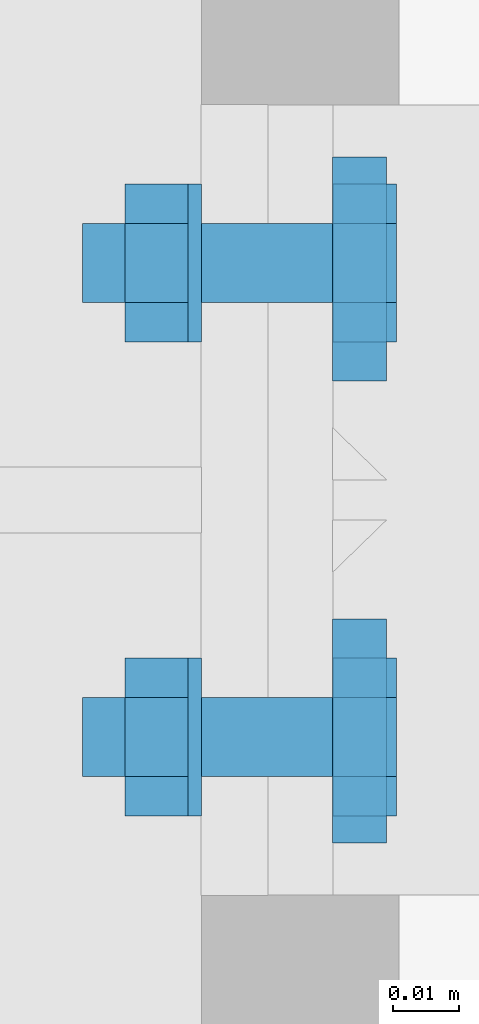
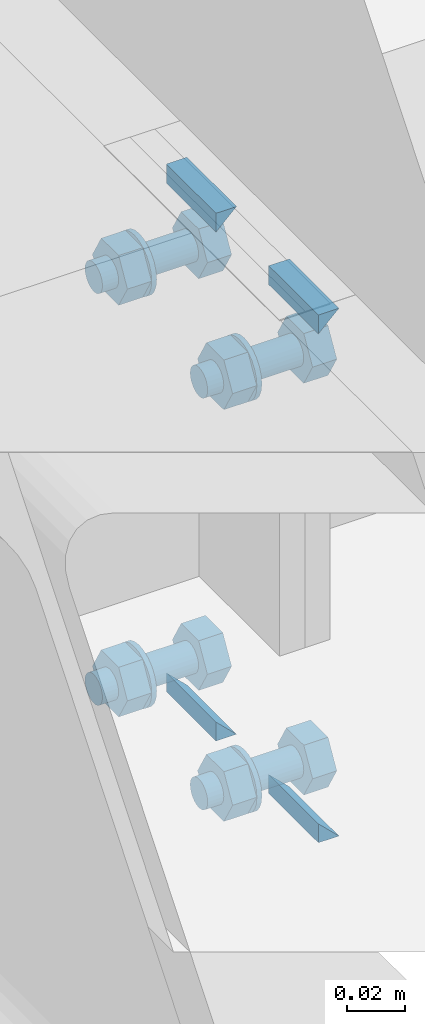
# One storey, part 33 of 66: 16 mechanical fasteners, 8 fasteners.
"""IFC4 building model written with IfcOpenShell, lengths in metres."""

from ifc_helpers import new_model, si_unit, frame, origin_with_axes, place, context, project, spatial, polyline, outline, extrude, type_object, element, save


model = new_model("IFC4")

# Units and contexts
model_context = context("Model", 3, precision=1e-05, world=origin_with_axes())
ifc_project = project(units=[si_unit("LENGTHUNIT", "METRE"), si_unit("AREAUNIT", "SQUARE_METRE"), si_unit("VOLUMEUNIT", "CUBIC_METRE"), si_unit("MASSUNIT", "GRAM", prefix="KILO"), si_unit("TIMEUNIT", "SECOND"), si_unit("PLANEANGLEUNIT", "RADIAN"), si_unit("SOLIDANGLEUNIT", "STERADIAN"), si_unit("THERMODYNAMICTEMPERATUREUNIT", "DEGREE_CELSIUS")], contexts=[model_context])

# Site, building, storey
placement_1 = place(None, origin_with_axes())
site = spatial("IfcSite", under=ifc_project, at=placement_1, Name="Italia", CompositionType="ELEMENT")
building = spatial("IfcBuilding", under=site, at=placement_1, Name="Uffici", CompositionType="ELEMENT")
storey_placement = place(None, frame((0.0, 0.0, 3.299999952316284), z_axis=(0.0, 0.0, 1.0), x_axis=(1.0, 0.0, 0.0)))
storey = spatial("IfcBuildingStorey", under=building, at=storey_placement, Name="Storey 1", CompositionType="ELEMENT", Elevation=3.299999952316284)

# Fasteners
fastener_type_1 = type_object("IfcFastenerType", Name="Collegamento -011_-012", PredefinedType="WELD")
placement_2 = place(placement_1, origin_with_axes())
fastener_1_placement = place(placement_2, origin_with_axes())
element("IfcFastener", 1, at=fastener_1_placement, inside=storey, type_object=fastener_type_1, Name="Collegamento -011_-012", context=model_context, shape_type="SweptSolid", body=[
    extrude(outline(polyline([(0.0, 0.0), (-0.00817336, 0.00792813), (0.0, 0.00792813), (0.0, 0.0)])), frame((0.13995, 3.54128, 3.28232), z_axis=(0.0, 1.0, 0.0), x_axis=(-1.0, 0.0, 0.0)), (0.0, 0.0, 1.0), 0.0339999),
])
fastener_type_2 = type_object("IfcFastenerType", Name="Collegamento -011_-012", PredefinedType="WELD")
fastener_2_placement = place(placement_2, origin_with_axes())
element("IfcFastener", 2, at=fastener_2_placement, inside=storey, type_object=fastener_type_2, Name="Collegamento -011_-012", context=model_context, shape_type="SweptSolid", body=[
    extrude(outline(polyline([(0.0, 0.0), (0.00817336, -0.00792813), (0.0, -0.00792813), (0.0, 0.0)])), frame((0.13995, 3.57528, 3.07768), z_axis=(0.0, -1.0, 0.0), x_axis=(1.0, 0.0, 0.0)), (0.0, 0.0, 1.0), 0.0339999),
])
fastener_type_3 = type_object("IfcFastenerType", Name="Collegamento -011_-012", PredefinedType="WELD")
fastener_3_placement = place(placement_2, origin_with_axes())
element("IfcFastener", 3, at=fastener_3_placement, inside=storey, type_object=fastener_type_3, Name="Collegamento -011_-012", context=model_context, shape_type="SweptSolid", body=[
    extrude(outline(polyline([(0.0, 0.0), (0.00817336, -0.00792813), (0.0, -0.00792813), (0.0, 0.0)])), frame((0.13995, 3.64538, 3.07768), z_axis=(0.0, -1.0, 0.0), x_axis=(1.0, 0.0, 0.0)), (0.0, 0.0, 1.0), 0.0339999),
])
fastener_type_4 = type_object("IfcFastenerType", Name="Collegamento -011_-012", PredefinedType="WELD")
fastener_4_placement = place(placement_2, origin_with_axes())
element("IfcFastener", 4, at=fastener_4_placement, inside=storey, type_object=fastener_type_4, Name="Collegamento -011_-012", context=model_context, shape_type="SweptSolid", body=[
    extrude(outline(polyline([(0.0, 0.0), (-0.00817336, 0.00792813), (0.0, 0.00792813), (0.0, 0.0)])), frame((0.13995, 3.61138, 3.28232), z_axis=(0.0, 1.0, 0.0), x_axis=(-1.0, 0.0, 0.0)), (0.0, 0.0, 1.0), 0.0339999),
])
fastener_type_5 = type_object("IfcFastenerType", Name="Collegamento -011_-012", PredefinedType="WELD")
fastener_5_placement = place(placement_2, origin_with_axes())
element("IfcFastener", 5, at=fastener_5_placement, inside=storey, type_object=fastener_type_5, Name="Collegamento -011_-012", context=model_context, shape_type="SweptSolid", body=[
    extrude(outline(polyline([(0.0, 0.0), (-0.00817336, 0.00792813), (0.0, 0.00792813), (0.0, 0.0)])), frame((0.13995, 3.54128, 3.28232), z_axis=(0.0, 1.0, 0.0), x_axis=(-1.0, 0.0, 0.0)), (0.0, 0.0, 1.0), 0.0339999),
])
fastener_type_6 = type_object("IfcFastenerType", Name="Collegamento -011_-012", PredefinedType="WELD")
fastener_6_placement = place(placement_2, origin_with_axes())
element("IfcFastener", 6, at=fastener_6_placement, inside=storey, type_object=fastener_type_6, Name="Collegamento -011_-012", context=model_context, shape_type="SweptSolid", body=[
    extrude(outline(polyline([(0.0, 0.0), (0.00817336, -0.00792813), (0.0, -0.00792813), (0.0, 0.0)])), frame((0.13995, 3.57528, 3.07768), z_axis=(0.0, -1.0, 0.0), x_axis=(1.0, 0.0, 0.0)), (0.0, 0.0, 1.0), 0.0339999),
])
fastener_type_7 = type_object("IfcFastenerType", Name="Collegamento -011_-012", PredefinedType="WELD")
fastener_7_placement = place(placement_2, origin_with_axes())
element("IfcFastener", 7, at=fastener_7_placement, inside=storey, type_object=fastener_type_7, Name="Collegamento -011_-012", context=model_context, shape_type="SweptSolid", body=[
    extrude(outline(polyline([(0.0, 0.0), (0.00817336, -0.00792813), (0.0, -0.00792813), (0.0, 0.0)])), frame((0.13995, 3.64538, 3.07768), z_axis=(0.0, -1.0, 0.0), x_axis=(1.0, 0.0, 0.0)), (0.0, 0.0, 1.0), 0.0339999),
])
fastener_type_8 = type_object("IfcFastenerType", Name="Collegamento -011_-012", PredefinedType="WELD")
fastener_8_placement = place(placement_2, origin_with_axes())
element("IfcFastener", 8, at=fastener_8_placement, inside=storey, type_object=fastener_type_8, Name="Collegamento -011_-012", context=model_context, shape_type="SweptSolid", body=[
    extrude(outline(polyline([(0.0, 0.0), (-0.00817336, 0.00792813), (0.0, 0.00792813), (0.0, 0.0)])), frame((0.13995, 3.61138, 3.28232), z_axis=(0.0, 1.0, 0.0), x_axis=(-1.0, 0.0, 0.0)), (0.0, 0.0, 1.0), 0.0339999),
])

# Mechanical fasteners
mechanical_fastener_type_1 = type_object("IfcMechanicalFastenerType", Name="Collegamento -011_-012", PredefinedType="BOLT")
mechanical_fastener_1_placement = place(placement_2, origin_with_axes())
element("IfcMechanicalFastener", 9, at=mechanical_fastener_1_placement, inside=storey, type_object=mechanical_fastener_type_1, Name="Collegamento -011_-012", NominalDiameter=0.0119999, context=model_context, shape_type="SweptSolid", body=[
    extrude(outline(polyline([(0.0, 0.0), (-0.0120001, 0.0), (-0.0180001, 0.0103924), (-0.0120001, 0.0207846), (0.0, 0.0207846), (0.00600004, 0.0103924), (0.0, 0.0)])), frame((0.14, 3.56333, 3.08361), z_axis=(1.0, 0.0, 0.0), x_axis=(0.0, 1.0, 0.0)), (0.0, 0.0, 1.0), 0.0096),
])
mechanical_fastener_type_2 = type_object("IfcMechanicalFastenerType", Name="Collegamento -011_-012", PredefinedType="BOLT")
mechanical_fastener_2_placement = place(placement_2, origin_with_axes())
element("IfcMechanicalFastener", 10, at=mechanical_fastener_2_placement, inside=storey, type_object=mechanical_fastener_type_2, Name="Collegamento -011_-012", NominalDiameter=0.012, context=model_context, shape_type="SweptSolid", body=[
    extrude(outline(polyline([(0.0, 0.0), (-0.000204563, -0.00155282), (-0.000803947, -0.00300002), (-0.00175738, -0.00424266), (-0.00300002, -0.00519609), (-0.00444722, -0.00579548), (-0.00600004, -0.00600004), (-0.00755286, -0.00579548), (-0.00900006, -0.00519609), (-0.0102427, -0.00424266), (-0.0111961, -0.00300002), (-0.0117955, -0.00155282), (-0.0120001, 0.0), (-0.0117955, 0.00155282), (-0.0111961, 0.00300002), (-0.0102427, 0.00424266), (-0.00900006, 0.00519609), (-0.00755286, 0.00579548), (-0.00600004, 0.00600004), (-0.00444722, 0.00579548), (-0.00300002, 0.00519609), (-0.00175738, 0.00424266), (-0.000803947, 0.00300002), (-0.000204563, 0.00155282), (0.0, 0.0)])), frame((0.102, 3.56333, 3.094), z_axis=(1.0, 0.0, 0.0), x_axis=(0.0, 1.0, 0.0)), (0.0, 0.0, 1.0), 0.038),
])
mechanical_fastener_type_3 = type_object("IfcMechanicalFastenerType", Name="Collegamento -011_-012", PredefinedType="BOLT")
mechanical_fastener_3_placement = place(placement_2, origin_with_axes())
element("IfcMechanicalFastener", 11, at=mechanical_fastener_3_placement, inside=storey, type_object=mechanical_fastener_type_3, Name="Collegamento -011_-012", NominalDiameter=0.0119999, context=model_context, shape_type="SweptSolid", body=[
    extrude(outline(polyline([(0.0, 0.0), (-0.0120001, 0.0), (-0.0180001, 0.0103924), (-0.0120001, 0.0207846), (0.0, 0.0207846), (0.00600004, 0.0103924), (0.0, 0.0)])), frame((0.1084, 3.56333, 3.08361), z_axis=(1.0, 0.0, 0.0), x_axis=(0.0, 1.0, 0.0)), (0.0, 0.0, 1.0), 0.00960001),
])
mechanical_fastener_type_4 = type_object("IfcMechanicalFastenerType", Name="Collegamento -011_-012", PredefinedType="BOLT")
mechanical_fastener_4_placement = place(placement_2, origin_with_axes())
element("IfcMechanicalFastener", 12, at=mechanical_fastener_4_placement, inside=storey, type_object=mechanical_fastener_type_4, Name="Collegamento -011_-012", NominalDiameter=0.024, context=model_context, shape_type="SweptSolid", body=[
    extrude(outline(polyline([(0.0, 0.0), (-0.000408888, -0.00310588), (-0.00160789, -0.00600004), (-0.00351477, -0.00848532), (-0.00600004, -0.0103922), (-0.00889421, -0.0115912), (-0.0120001, -0.0120001), (-0.015106, -0.0115912), (-0.0180001, -0.0103922), (-0.0204854, -0.00848532), (-0.0223923, -0.00600004), (-0.0235913, -0.00310588), (-0.0240002, 0.0), (-0.0235913, 0.00310588), (-0.0223923, 0.00600004), (-0.0204854, 0.00848532), (-0.0180001, 0.0103922), (-0.015106, 0.0115912), (-0.0120001, 0.0120001), (-0.00889421, 0.0115912), (-0.00600004, 0.0103922), (-0.00351477, 0.00848532), (-0.00160789, 0.00600004), (-0.000408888, 0.00310588), (0.0, 0.0)])), frame((0.118, 3.56933, 3.094), z_axis=(1.0, 0.0, 0.0), x_axis=(0.0, 1.0, 0.0)), (0.0, 0.0, 1.0), 0.002),
])
mechanical_fastener_type_5 = type_object("IfcMechanicalFastenerType", Name="Collegamento -011_-012", PredefinedType="BOLT")
mechanical_fastener_5_placement = place(placement_2, origin_with_axes())
element("IfcMechanicalFastener", 13, at=mechanical_fastener_5_placement, inside=storey, type_object=mechanical_fastener_type_5, Name="Collegamento -011_-012", NominalDiameter=0.0119999, context=model_context, shape_type="SweptSolid", body=[
    extrude(outline(polyline([(0.0, 0.0), (-0.0120001, 0.0), (-0.0180001, 0.0103924), (-0.0120001, 0.0207846), (0.0, 0.0207846), (0.00600004, 0.0103924), (0.0, 0.0)])), frame((0.14, 3.63533, 3.08361), z_axis=(1.0, 0.0, 0.0), x_axis=(0.0, 1.0, 0.0)), (0.0, 0.0, 1.0), 0.0096),
])
mechanical_fastener_type_6 = type_object("IfcMechanicalFastenerType", Name="Collegamento -011_-012", PredefinedType="BOLT")
mechanical_fastener_6_placement = place(placement_2, origin_with_axes())
element("IfcMechanicalFastener", 14, at=mechanical_fastener_6_placement, inside=storey, type_object=mechanical_fastener_type_6, Name="Collegamento -011_-012", NominalDiameter=0.012, context=model_context, shape_type="SweptSolid", body=[
    extrude(outline(polyline([(0.0, 0.0), (-0.000204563, -0.00155282), (-0.000803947, -0.00300002), (-0.00175738, -0.00424266), (-0.00300002, -0.00519609), (-0.00444722, -0.00579548), (-0.00600004, -0.00600004), (-0.00755286, -0.00579548), (-0.00900006, -0.00519609), (-0.0102427, -0.00424266), (-0.0111961, -0.00300002), (-0.0117955, -0.00155282), (-0.0120001, 0.0), (-0.0117955, 0.00155282), (-0.0111961, 0.00300002), (-0.0102427, 0.00424266), (-0.00900006, 0.00519609), (-0.00755286, 0.00579548), (-0.00600004, 0.00600004), (-0.00444722, 0.00579548), (-0.00300002, 0.00519609), (-0.00175738, 0.00424266), (-0.000803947, 0.00300002), (-0.000204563, 0.00155282), (0.0, 0.0)])), frame((0.102, 3.63533, 3.094), z_axis=(1.0, 0.0, 0.0), x_axis=(0.0, 1.0, 0.0)), (0.0, 0.0, 1.0), 0.038),
])
mechanical_fastener_type_7 = type_object("IfcMechanicalFastenerType", Name="Collegamento -011_-012", PredefinedType="BOLT")
mechanical_fastener_7_placement = place(placement_2, origin_with_axes())
element("IfcMechanicalFastener", 15, at=mechanical_fastener_7_placement, inside=storey, type_object=mechanical_fastener_type_7, Name="Collegamento -011_-012", NominalDiameter=0.0119999, context=model_context, shape_type="SweptSolid", body=[
    extrude(outline(polyline([(0.0, 0.0), (-0.0120001, 0.0), (-0.0180001, 0.0103924), (-0.0120001, 0.0207846), (0.0, 0.0207846), (0.00600004, 0.0103924), (0.0, 0.0)])), frame((0.1084, 3.63533, 3.08361), z_axis=(1.0, 0.0, 0.0), x_axis=(0.0, 1.0, 0.0)), (0.0, 0.0, 1.0), 0.00960001),
])
mechanical_fastener_type_8 = type_object("IfcMechanicalFastenerType", Name="Collegamento -011_-012", PredefinedType="BOLT")
mechanical_fastener_8_placement = place(placement_2, origin_with_axes())
element("IfcMechanicalFastener", 16, at=mechanical_fastener_8_placement, inside=storey, type_object=mechanical_fastener_type_8, Name="Collegamento -011_-012", NominalDiameter=0.024, context=model_context, shape_type="SweptSolid", body=[
    extrude(outline(polyline([(0.0, 0.0), (-0.000408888, -0.00310588), (-0.00160789, -0.00600004), (-0.00351477, -0.00848532), (-0.00600004, -0.0103922), (-0.00889421, -0.0115912), (-0.0120001, -0.0120001), (-0.015106, -0.0115912), (-0.0180001, -0.0103922), (-0.0204854, -0.00848532), (-0.0223923, -0.00600004), (-0.0235913, -0.00310588), (-0.0240002, 0.0), (-0.0235913, 0.00310588), (-0.0223923, 0.00600004), (-0.0204854, 0.00848532), (-0.0180001, 0.0103922), (-0.015106, 0.0115912), (-0.0120001, 0.0120001), (-0.00889421, 0.0115912), (-0.00600004, 0.0103922), (-0.00351477, 0.00848532), (-0.00160789, 0.00600004), (-0.000408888, 0.00310588), (0.0, 0.0)])), frame((0.118, 3.64133, 3.094), z_axis=(1.0, 0.0, 0.0), x_axis=(0.0, 1.0, 0.0)), (0.0, 0.0, 1.0), 0.002),
])
mechanical_fastener_type_9 = type_object("IfcMechanicalFastenerType", Name="Collegamento -011_-012", PredefinedType="BOLT")
mechanical_fastener_9_placement = place(placement_2, origin_with_axes())
element("IfcMechanicalFastener", 17, at=mechanical_fastener_9_placement, inside=storey, type_object=mechanical_fastener_type_9, Name="Collegamento -011_-012", NominalDiameter=0.0119999, context=model_context, shape_type="SweptSolid", body=[
    extrude(outline(polyline([(0.0, 0.0), (-0.0120001, 0.0), (-0.0180001, 0.0103922), (-0.0120001, 0.0207846), (0.0, 0.0207846), (0.00600004, 0.0103922), (0.0, 0.0)])), frame((0.14, 3.56333, 3.25561), z_axis=(1.0, 0.0, 0.0), x_axis=(0.0, 1.0, 0.0)), (0.0, 0.0, 1.0), 0.0096),
])
mechanical_fastener_type_10 = type_object("IfcMechanicalFastenerType", Name="Collegamento -011_-012", PredefinedType="BOLT")
mechanical_fastener_10_placement = place(placement_2, origin_with_axes())
element("IfcMechanicalFastener", 18, at=mechanical_fastener_10_placement, inside=storey, type_object=mechanical_fastener_type_10, Name="Collegamento -011_-012", NominalDiameter=0.012, context=model_context, shape_type="SweptSolid", body=[
    extrude(outline(polyline([(0.0, 0.0), (-0.000204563, -0.00155282), (-0.000803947, -0.00300002), (-0.00175738, -0.00424266), (-0.00300002, -0.00519609), (-0.00444722, -0.00579548), (-0.00600004, -0.00600004), (-0.00755286, -0.00579548), (-0.00900006, -0.00519609), (-0.0102427, -0.00424266), (-0.0111961, -0.00300002), (-0.0117955, -0.00155282), (-0.0120001, 0.0), (-0.0117955, 0.00155282), (-0.0111961, 0.00300002), (-0.0102427, 0.00424266), (-0.00900006, 0.00519609), (-0.00755286, 0.00579548), (-0.00600004, 0.00600004), (-0.00444722, 0.00579548), (-0.00300002, 0.00519609), (-0.00175738, 0.00424266), (-0.000803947, 0.00300002), (-0.000204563, 0.00155282), (0.0, 0.0)])), frame((0.102, 3.56333, 3.266), z_axis=(1.0, 0.0, 0.0), x_axis=(0.0, 1.0, 0.0)), (0.0, 0.0, 1.0), 0.038),
])
mechanical_fastener_type_11 = type_object("IfcMechanicalFastenerType", Name="Collegamento -011_-012", PredefinedType="BOLT")
mechanical_fastener_11_placement = place(placement_2, origin_with_axes())
element("IfcMechanicalFastener", 19, at=mechanical_fastener_11_placement, inside=storey, type_object=mechanical_fastener_type_11, Name="Collegamento -011_-012", NominalDiameter=0.0119999, context=model_context, shape_type="SweptSolid", body=[
    extrude(outline(polyline([(0.0, 0.0), (-0.0120001, 0.0), (-0.0180001, 0.0103922), (-0.0120001, 0.0207846), (0.0, 0.0207846), (0.00600004, 0.0103922), (0.0, 0.0)])), frame((0.1084, 3.56333, 3.25561), z_axis=(1.0, 0.0, 0.0), x_axis=(0.0, 1.0, 0.0)), (0.0, 0.0, 1.0), 0.00960001),
])
mechanical_fastener_type_12 = type_object("IfcMechanicalFastenerType", Name="Collegamento -011_-012", PredefinedType="BOLT")
mechanical_fastener_12_placement = place(placement_2, origin_with_axes())
element("IfcMechanicalFastener", 20, at=mechanical_fastener_12_placement, inside=storey, type_object=mechanical_fastener_type_12, Name="Collegamento -011_-012", NominalDiameter=0.024, context=model_context, shape_type="SweptSolid", body=[
    extrude(outline(polyline([(0.0, 0.0), (-0.000408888, -0.00310588), (-0.00160789, -0.00600004), (-0.00351477, -0.00848532), (-0.00600004, -0.0103922), (-0.00889421, -0.0115912), (-0.0120001, -0.0120001), (-0.015106, -0.0115912), (-0.0180001, -0.0103922), (-0.0204854, -0.00848532), (-0.0223923, -0.00600004), (-0.0235913, -0.00310588), (-0.0240002, 0.0), (-0.0235913, 0.00310588), (-0.0223923, 0.00600004), (-0.0204854, 0.00848532), (-0.0180001, 0.0103922), (-0.015106, 0.0115912), (-0.0120001, 0.0120001), (-0.00889421, 0.0115912), (-0.00600004, 0.0103922), (-0.00351477, 0.00848532), (-0.00160789, 0.00600004), (-0.000408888, 0.00310588), (0.0, 0.0)])), frame((0.118, 3.56933, 3.266), z_axis=(1.0, 0.0, 0.0), x_axis=(0.0, 1.0, 0.0)), (0.0, 0.0, 1.0), 0.002),
])
mechanical_fastener_type_13 = type_object("IfcMechanicalFastenerType", Name="Collegamento -011_-012", PredefinedType="BOLT")
mechanical_fastener_13_placement = place(placement_2, origin_with_axes())
element("IfcMechanicalFastener", 21, at=mechanical_fastener_13_placement, inside=storey, type_object=mechanical_fastener_type_13, Name="Collegamento -011_-012", NominalDiameter=0.0119999, context=model_context, shape_type="SweptSolid", body=[
    extrude(outline(polyline([(0.0, 0.0), (-0.0120001, 0.0), (-0.0180001, 0.0103922), (-0.0120001, 0.0207846), (0.0, 0.0207846), (0.00600004, 0.0103922), (0.0, 0.0)])), frame((0.14, 3.63533, 3.25561), z_axis=(1.0, 0.0, 0.0), x_axis=(0.0, 1.0, 0.0)), (0.0, 0.0, 1.0), 0.0096),
])
mechanical_fastener_type_14 = type_object("IfcMechanicalFastenerType", Name="Collegamento -011_-012", PredefinedType="BOLT")
mechanical_fastener_14_placement = place(placement_2, origin_with_axes())
element("IfcMechanicalFastener", 22, at=mechanical_fastener_14_placement, inside=storey, type_object=mechanical_fastener_type_14, Name="Collegamento -011_-012", NominalDiameter=0.012, context=model_context, shape_type="SweptSolid", body=[
    extrude(outline(polyline([(0.0, 0.0), (-0.000204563, -0.00155282), (-0.000803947, -0.00300002), (-0.00175738, -0.00424266), (-0.00300002, -0.00519609), (-0.00444722, -0.00579548), (-0.00600004, -0.00600004), (-0.00755286, -0.00579548), (-0.00900006, -0.00519609), (-0.0102427, -0.00424266), (-0.0111961, -0.00300002), (-0.0117955, -0.00155282), (-0.0120001, 0.0), (-0.0117955, 0.00155282), (-0.0111961, 0.00300002), (-0.0102427, 0.00424266), (-0.00900006, 0.00519609), (-0.00755286, 0.00579548), (-0.00600004, 0.00600004), (-0.00444722, 0.00579548), (-0.00300002, 0.00519609), (-0.00175738, 0.00424266), (-0.000803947, 0.00300002), (-0.000204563, 0.00155282), (0.0, 0.0)])), frame((0.102, 3.63533, 3.266), z_axis=(1.0, 0.0, 0.0), x_axis=(0.0, 1.0, 0.0)), (0.0, 0.0, 1.0), 0.038),
])
mechanical_fastener_type_15 = type_object("IfcMechanicalFastenerType", Name="Collegamento -011_-012", PredefinedType="BOLT")
mechanical_fastener_15_placement = place(placement_2, origin_with_axes())
element("IfcMechanicalFastener", 23, at=mechanical_fastener_15_placement, inside=storey, type_object=mechanical_fastener_type_15, Name="Collegamento -011_-012", NominalDiameter=0.0119999, context=model_context, shape_type="SweptSolid", body=[
    extrude(outline(polyline([(0.0, 0.0), (-0.0120001, 0.0), (-0.0180001, 0.0103922), (-0.0120001, 0.0207846), (0.0, 0.0207846), (0.00600004, 0.0103922), (0.0, 0.0)])), frame((0.1084, 3.63533, 3.25561), z_axis=(1.0, 0.0, 0.0), x_axis=(0.0, 1.0, 0.0)), (0.0, 0.0, 1.0), 0.00960001),
])
mechanical_fastener_type_16 = type_object("IfcMechanicalFastenerType", Name="Collegamento -011_-012", PredefinedType="BOLT")
mechanical_fastener_16_placement = place(placement_2, origin_with_axes())
element("IfcMechanicalFastener", 24, at=mechanical_fastener_16_placement, inside=storey, type_object=mechanical_fastener_type_16, Name="Collegamento -011_-012", NominalDiameter=0.024, context=model_context, shape_type="SweptSolid", body=[
    extrude(outline(polyline([(0.0, 0.0), (-0.000408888, -0.00310588), (-0.00160789, -0.00600004), (-0.00351477, -0.00848532), (-0.00600004, -0.0103922), (-0.00889421, -0.0115912), (-0.0120001, -0.0120001), (-0.015106, -0.0115912), (-0.0180001, -0.0103922), (-0.0204854, -0.00848532), (-0.0223923, -0.00600004), (-0.0235913, -0.00310588), (-0.0240002, 0.0), (-0.0235913, 0.00310588), (-0.0223923, 0.00600004), (-0.0204854, 0.00848532), (-0.0180001, 0.0103922), (-0.015106, 0.0115912), (-0.0120001, 0.0120001), (-0.00889421, 0.0115912), (-0.00600004, 0.0103922), (-0.00351477, 0.00848532), (-0.00160789, 0.00600004), (-0.000408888, 0.00310588), (0.0, 0.0)])), frame((0.118, 3.64133, 3.266), z_axis=(1.0, 0.0, 0.0), x_axis=(0.0, 1.0, 0.0)), (0.0, 0.0, 1.0), 0.002),
])

save(model, "model.ifc")
